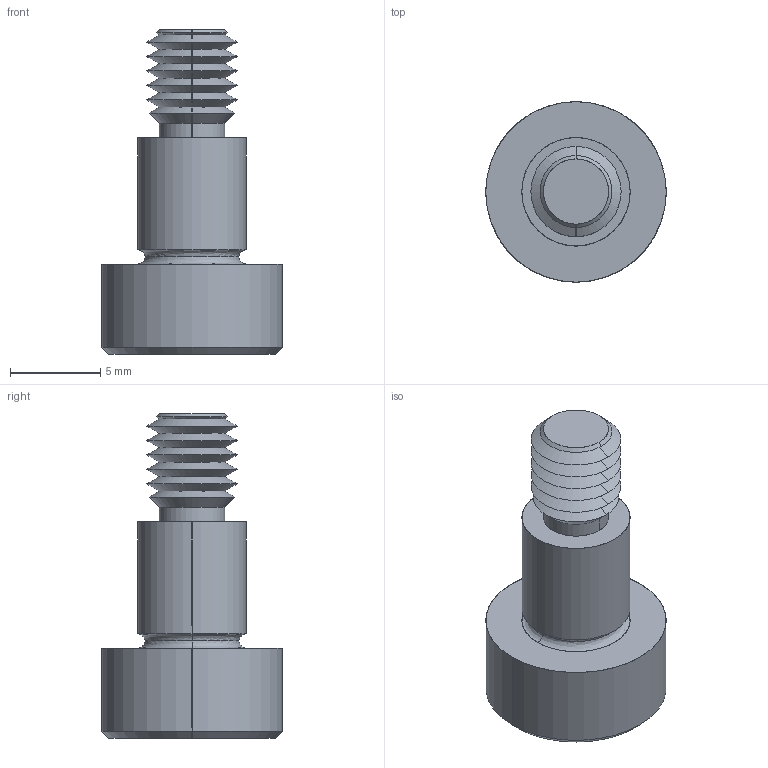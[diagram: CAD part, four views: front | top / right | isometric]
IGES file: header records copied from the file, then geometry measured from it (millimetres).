
Start section: SolidWorks IGES file using analytic representation for surfaces
Global section: file name: C:\Users\IanO\Documents\Temp Folder\GENERAL\SCREW REVISION\P0130_v2\P0130.T5_v2_20220106_IGES\P0130.060-007-T5.igs; native system: SolidWorks 2019; preprocessor: SolidWorks 2019; author: IanO; date: 220106.222143; units: millimetre
Bounding box: 10 x 10 x 18 mm (x, y, z)
Surface area: 619.5 mm2 (no closed solid volume)
Topology: 0 solids, 0 shells, 64 faces, 504 edges, 502 vertices
Faces by surface type: revolution 44, bspline 20
